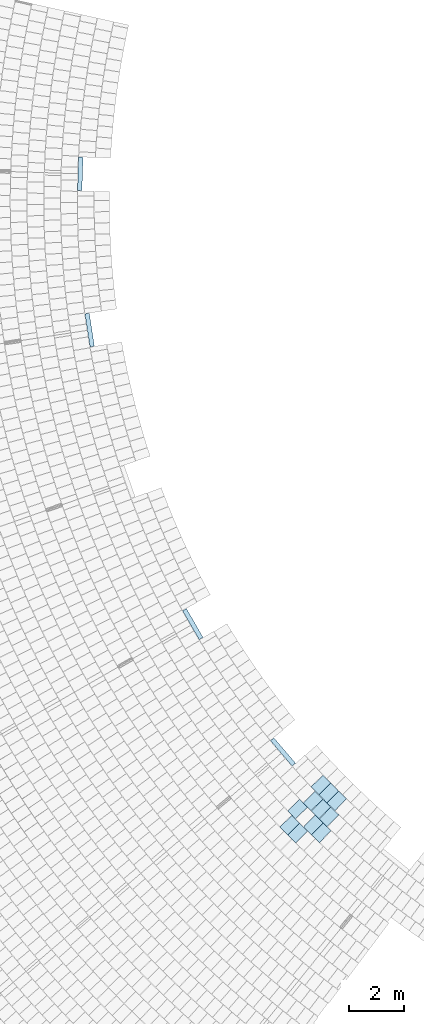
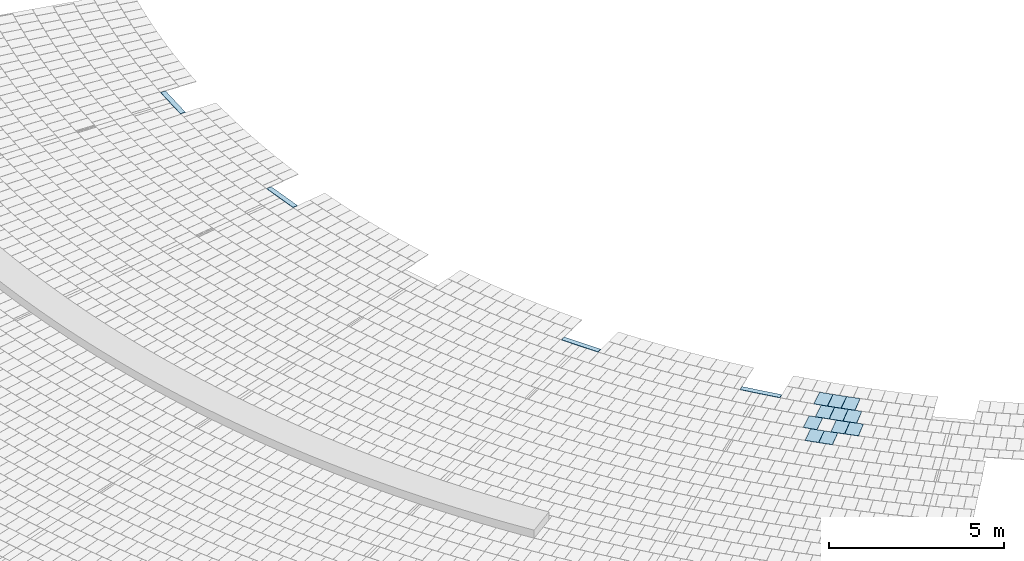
# One storey, part 9 of 438: 15 slabs.
"""IFC2X3 building model written with IfcOpenShell, lengths in millimetres."""

from ifc_helpers import new_model, entity, si_unit, converted_unit, derived_unit, direction, frame, frame_2d, origin, place, context, subcontext, project, spatial, polyline, rectangle, outline, extrude, material, layer, layer_set, layer_usage, type_object, element, save


model = new_model("IFC2X3")

# Units and contexts
model_context = context("Model", 3, precision=0.01, world=origin(), true_north=direction((6.123031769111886e-17, 1.0)))
body_context = subcontext(model_context, "Body", "Model", "MODEL_VIEW")
ifc_project = project(units=[si_unit("LENGTHUNIT", "METRE", prefix="MILLI"), si_unit("AREAUNIT", "SQUARE_METRE"), si_unit("VOLUMEUNIT", "CUBIC_METRE"), converted_unit("PLANEANGLEUNIT", "DEGREE", entity("IfcRatioMeasure", 0.017453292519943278), si_unit("PLANEANGLEUNIT", "RADIAN"), dimensions=[0, 0, 0, 0, 0, 0, 0]), si_unit("MASSUNIT", "GRAM", prefix="KILO"), derived_unit("MASSDENSITYUNIT", [(si_unit("MASSUNIT", "GRAM", prefix="KILO"), 1), (si_unit("LENGTHUNIT", "METRE"), -3)]), derived_unit("MOMENTOFINERTIAUNIT", [(si_unit("LENGTHUNIT", "METRE"), 4)]), si_unit("TIMEUNIT", "SECOND"), si_unit("FREQUENCYUNIT", "HERTZ"), si_unit("THERMODYNAMICTEMPERATUREUNIT", "DEGREE_CELSIUS"), derived_unit("THERMALTRANSMITTANCEUNIT", [(si_unit("MASSUNIT", "GRAM", prefix="KILO"), 1), (si_unit("THERMODYNAMICTEMPERATUREUNIT", "KELVIN"), -1), (si_unit("TIMEUNIT", "SECOND"), -3)]), derived_unit("THERMALCONDUCTANCEUNIT", [(si_unit("MASSUNIT", "GRAM", prefix="KILO"), 1), (si_unit("LENGTHUNIT", "METRE"), 1), (si_unit("THERMODYNAMICTEMPERATUREUNIT", "KELVIN"), -1), (si_unit("TIMEUNIT", "SECOND"), -3)]), derived_unit("VOLUMETRICFLOWRATEUNIT", [(si_unit("LENGTHUNIT", "METRE"), 3), (si_unit("TIMEUNIT", "SECOND"), -1)]), derived_unit("MASSFLOWRATEUNIT", [(si_unit("MASSUNIT", "GRAM", prefix="KILO"), 1), (si_unit("TIMEUNIT", "SECOND"), -1)]), derived_unit("ROTATIONALFREQUENCYUNIT", [(si_unit("TIMEUNIT", "SECOND"), -1)]), si_unit("ELECTRICCURRENTUNIT", "AMPERE"), si_unit("ELECTRICVOLTAGEUNIT", "VOLT"), si_unit("POWERUNIT", "WATT"), converted_unit("FORCEUNIT", "KIP", entity("IfcRatioMeasure", 2.088543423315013e-05), si_unit("FORCEUNIT", "NEWTON"), dimensions=[1, 1, -2, 0, 0, 0, 0]), si_unit("ILLUMINANCEUNIT", "LUX"), si_unit("LUMINOUSFLUXUNIT", "LUMEN"), si_unit("LUMINOUSINTENSITYUNIT", "CANDELA"), derived_unit("USERDEFINED", [(si_unit("MASSUNIT", "GRAM", prefix="KILO"), -1), (si_unit("LENGTHUNIT", "METRE"), -2), (si_unit("TIMEUNIT", "SECOND"), 3), (si_unit("LUMINOUSFLUXUNIT", "LUMEN"), 1)]), derived_unit("USERDEFINED", [(si_unit("MASSUNIT", "GRAM", prefix="KILO"), 1), (si_unit("LENGTHUNIT", "METRE"), 3), (si_unit("TIMEUNIT", "SECOND"), -3), (si_unit("ELECTRICCURRENTUNIT", "AMPERE"), -2)]), derived_unit("USERDEFINED", [(si_unit("LENGTHUNIT", "METRE"), 2), (si_unit("TIMEUNIT", "SECOND"), -2)]), derived_unit("SOUNDPOWERUNIT", [(si_unit("MASSUNIT", "GRAM", prefix="KILO"), 1), (si_unit("LENGTHUNIT", "METRE"), 2), (si_unit("TIMEUNIT", "SECOND"), -3)]), derived_unit("SOUNDPRESSUREUNIT", [(si_unit("MASSUNIT", "GRAM", prefix="KILO"), 1), (si_unit("LENGTHUNIT", "METRE"), -1), (si_unit("TIMEUNIT", "SECOND"), -2)]), derived_unit("LINEARVELOCITYUNIT", [(si_unit("LENGTHUNIT", "METRE"), 1), (si_unit("TIMEUNIT", "SECOND"), -1)]), si_unit("PRESSUREUNIT", "PASCAL"), derived_unit("USERDEFINED", [(si_unit("LENGTHUNIT", "METRE"), -2), (si_unit("MASSUNIT", "GRAM", prefix="KILO"), 1), (si_unit("TIMEUNIT", "SECOND"), -2)]), derived_unit("LINEARFORCEUNIT", [(si_unit("MASSUNIT", "GRAM", prefix="KILO"), 1), (si_unit("LENGTHUNIT", "METRE"), 1), (si_unit("TIMEUNIT", "SECOND"), -2), (si_unit("LENGTHUNIT", "METRE"), -1)]), derived_unit("PLANARFORCEUNIT", [(si_unit("MASSUNIT", "GRAM", prefix="KILO"), 1), (si_unit("LENGTHUNIT", "METRE"), 1), (si_unit("TIMEUNIT", "SECOND"), -2), (si_unit("LENGTHUNIT", "METRE"), -2)]), derived_unit("SPECIFICHEATCAPACITYUNIT", [(si_unit("LENGTHUNIT", "METRE"), 2), (si_unit("TIMEUNIT", "SECOND"), -2), (si_unit("THERMODYNAMICTEMPERATUREUNIT", "KELVIN"), -1)]), derived_unit("VAPORPERMEABILITYUNIT", [(si_unit("TIMEUNIT", "SECOND"), 1), (si_unit("LENGTHUNIT", "METRE"), -1)]), derived_unit("DYNAMICVISCOSITYUNIT", [(si_unit("MASSUNIT", "GRAM", prefix="KILO"), 1), (si_unit("LENGTHUNIT", "METRE"), -1), (si_unit("TIMEUNIT", "SECOND"), -1)]), derived_unit("THERMALEXPANSIONCOEFFICIENTUNIT", [(si_unit("THERMODYNAMICTEMPERATUREUNIT", "KELVIN"), -1)])], contexts=[model_context])

# Site, building, storey
site_placement = place(None, frame((0.0, 0.0, 0.0), z_axis=(0.0, 0.0, 1.0), x_axis=(0.8191520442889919, 0.5735764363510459, 0.0)))
site = spatial("IfcSite", under=ifc_project, at=site_placement, Name="Default", CompositionType="ELEMENT")
building_placement = place(site_placement, origin())
building = spatial("IfcBuilding", under=site, at=building_placement, CompositionType="ELEMENT")
storey_placement = place(building_placement, origin())
storey = spatial("IfcBuildingStorey", under=building, at=storey_placement, Name="PLAN", CompositionType="ELEMENT", Elevation=0.0)

# Slabs
ifc_material = material(Name="Paint-01")
ifc_layer = layer(ifc_material, 20.00000000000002)
ifc_layer_set = layer_set([ifc_layer], Name="Floor:Slab-179:1000")
ifc_layer_usage = layer_usage(ifc_layer_set, "AXIS3", "POSITIVE", 0.0)
slab_type = type_object("IfcSlabType", Name="Floor:Slab-179:1000", PredefinedType="FLOOR", material=ifc_layer_set)
slab_1_placement = place(storey_placement, origin())
element("IfcSlab", 1, at=slab_1_placement, inside=storey, type_object=slab_type, material=ifc_layer_usage, Name="Floor:Slab-179:1000", ObjectType="Floor:Slab-179:1000", PredefinedType="FLOOR", context=body_context, shape_type="SweptSolid", body=[
    extrude(rectangle(XDim=1199.9999999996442, YDim=160.00000000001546, at=frame_2d((3.865352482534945e-12, -1.9113599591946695e-12), x_axis=(1.0, 0.0))), frame((-67744.84397252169, -54415.02907007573, 520.0), z_axis=(0.0, 0.0, -1.0), x_axis=(-0.4425299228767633, -0.8967537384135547, 0.0)), (0.0, 0.0, 1.0), 19.99999999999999),
])
slab_2_placement = place(storey_placement, origin())
element("IfcSlab", 2, at=slab_2_placement, inside=storey, type_object=slab_type, material=ifc_layer_usage, Name="Floor:Slab-179:1000", ObjectType="Floor:Slab-179:1000", PredefinedType="FLOOR", context=body_context, shape_type="SweptSolid", body=[
    extrude(rectangle(XDim=1199.9999999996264, YDim=159.9999999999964, at=frame_2d((-5.229594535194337e-12, 1.4701129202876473e-11), x_axis=(1.0, 0.0))), frame((-64791.31759277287, -49606.53341616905, 520.0), z_axis=(0.0, 0.0, -1.0), x_axis=(-0.5997730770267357, -0.8001701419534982, 0.0)), (0.0, 0.0, 1.0), 20.000000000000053),
])
slab_3_placement = place(storey_placement, origin())
element("IfcSlab", 3, at=slab_3_placement, inside=storey, type_object=slab_type, material=ifc_layer_usage, Name="Floor:Slab-179:1000", ObjectType="Floor:Slab-179:1000", PredefinedType="FLOOR", context=body_context, shape_type="SweptSolid", body=[
    extrude(outline(polyline([(-200.00000453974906, -299.9999986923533), (200.00000134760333, -299.99999869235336), (200.0000045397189, 299.99999869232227), (-200.00000134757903, 299.999998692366), (-200.00000453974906, -299.9999986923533)])), frame((-71511.69140755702, -72866.02138888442, 520.0), z_axis=(0.0, 0.0, -1.0), x_axis=(0.1557696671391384, -0.9877934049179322, 0.0)), (0.0, 0.0, 1.0), 20.000000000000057),
])
slab_4_placement = place(storey_placement, origin())
element("IfcSlab", 4, at=slab_4_placement, inside=storey, type_object=slab_type, material=ifc_layer_usage, Name="Floor:Slab-179:1000", ObjectType="Floor:Slab-179:1000", PredefinedType="FLOOR", context=body_context, shape_type="SweptSolid", body=[
    extrude(outline(polyline([(-200.0000045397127, -299.9999986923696), (200.0000013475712, -299.9999986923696), (200.00000453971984, 299.99999869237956), (-200.0000013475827, 299.99999869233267), (-200.0000045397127, -299.9999986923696)])), frame((-70885.13028792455, -72951.88979726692, 520.0), z_axis=(0.0, 0.0, -1.0), x_axis=(0.16158526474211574, -0.9868587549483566, 0.0)), (0.0, 0.0, 1.0), 19.999999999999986),
])
slab_5_placement = place(storey_placement, origin())
element("IfcSlab", 5, at=slab_5_placement, inside=storey, type_object=slab_type, material=ifc_layer_usage, Name="Floor:Slab-179:1000", ObjectType="Floor:Slab-179:1000", PredefinedType="FLOOR", context=body_context, shape_type="SweptSolid", body=[
    extrude(outline(polyline([(-300.0, -200.00000294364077), (299.99999762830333, -200.00000294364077), (300.0, 200.0000029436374), (-299.9999976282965, 200.0000029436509), (-300.0, -200.00000294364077)])), frame((-71300.06838125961, -74058.81394243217, 520.0), z_axis=(0.0, 0.0, -1.0), x_axis=(0.9810911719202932, 0.1935461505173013, 0.0)), (0.0, 0.0, 1.0), 19.99999999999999),
])
slab_6_placement = place(storey_placement, origin())
element("IfcSlab", 6, at=slab_6_placement, inside=storey, type_object=slab_type, material=ifc_layer_usage, Name="Floor:Slab-179:1000", ObjectType="Floor:Slab-179:1000", PredefinedType="FLOOR", context=body_context, shape_type="SweptSolid", body=[
    extrude(outline(polyline([(-200.00000453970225, -299.99999869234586), (200.00000134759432, -299.99999869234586), (200.00000453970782, 299.9999986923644), (-200.00000134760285, 299.9999986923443), (-200.00000453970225, -299.99999869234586)])), frame((-70817.26753150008, -73350.05197143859, 520.0), z_axis=(0.0, 0.0, -1.0), x_axis=(0.17444164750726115, -0.9846675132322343, 0.0)), (0.0, 0.0, 1.0), 20.000000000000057),
])
slab_7_placement = place(storey_placement, origin())
element("IfcSlab", 7, at=slab_7_placement, inside=storey, type_object=slab_type, material=ifc_layer_usage, Name="Floor:Slab-179:1000", ObjectType="Floor:Slab-179:1000", PredefinedType="FLOOR", context=body_context, shape_type="SweptSolid", body=[
    extrude(outline(polyline([(-200.000004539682, -299.9999986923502), (200.00000134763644, -299.9999986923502), (200.00000453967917, 299.9999986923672), (-200.00000134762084, 299.9999986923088), (-200.000004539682, -299.9999986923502)])), frame((-72074.06611933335, -73178.84425762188, 520.0), z_axis=(0.0, 0.0, -1.0), x_axis=(0.16256215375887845, -0.9866983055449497, 0.0)), (0.0, 0.0, 1.0), 20.000000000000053),
])
slab_8_placement = place(storey_placement, origin())
element("IfcSlab", 8, at=slab_8_placement, inside=storey, type_object=slab_type, material=ifc_layer_usage, Name="Floor:Slab-179:1000", ObjectType="Floor:Slab-179:1000", PredefinedType="FLOOR", context=body_context, shape_type="SweptSolid", body=[
    extrude(outline(polyline([(-200.00000453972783, -299.9999986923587), (200.0000013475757, -299.9999986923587), (200.0000045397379, 299.99999869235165), (-200.00000134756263, 299.9999986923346), (-200.00000453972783, -299.9999986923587)])), frame((-72005.93270409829, -73576.81019518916, 520.0), z_axis=(0.0, 0.0, -1.0), x_axis=(0.17492902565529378, -0.9845810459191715, 0.0)), (0.0, 0.0, 1.0), 20.000000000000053),
])
slab_9_placement = place(storey_placement, origin())
element("IfcSlab", 9, at=slab_9_placement, inside=storey, type_object=slab_type, material=ifc_layer_usage, Name="Floor:Slab-179:1000", ObjectType="Floor:Slab-179:1000", PredefinedType="FLOOR", context=body_context, shape_type="SweptSolid", body=[
    extrude(outline(polyline([(-200.00000453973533, -299.9999986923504), (200.0000013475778, -299.99999869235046), (200.00000453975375, 299.99999869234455), (-200.00000134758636, 299.9999986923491), (-200.00000453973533, -299.9999986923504)])), frame((-70322.5230101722, -72638.93969819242, 520.0), z_axis=(0.0, 0.0, -1.0), x_axis=(0.15449845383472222, -0.9879930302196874, 0.0)), (0.0, 0.0, 1.0), 19.99999999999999),
])
slab_10_placement = place(storey_placement, origin())
element("IfcSlab", 10, at=slab_10_placement, inside=storey, type_object=slab_type, material=ifc_layer_usage, Name="Floor:Slab-179:1000", ObjectType="Floor:Slab-179:1000", PredefinedType="FLOOR", context=body_context, shape_type="SweptSolid", body=[
    extrude(outline(polyline([(-200.00000453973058, -299.99999869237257), (200.00000134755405, -299.99999869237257), (200.00000453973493, 299.99999869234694), (-200.00000134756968, 299.9999986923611), (-200.00000453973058, -299.99999869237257)])), frame((-70257.4546641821, -73037.6474929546, 520.0), z_axis=(0.0, 0.0, -1.0), x_axis=(0.16762895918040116, -0.9858501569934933, 0.0)), (0.0, 0.0, 1.0), 20.000000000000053),
])
slab_11_placement = place(storey_placement, origin())
element("IfcSlab", 11, at=slab_11_placement, inside=storey, type_object=slab_type, material=ifc_layer_usage, Name="Floor:Slab-179:1000", ObjectType="Floor:Slab-179:1000", PredefinedType="FLOOR", context=body_context, shape_type="SweptSolid", body=[
    extrude(outline(polyline([(-300.0, -200.00000294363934), (299.9999976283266, -200.00000294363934), (300.0, 200.00000294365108), (-299.9999976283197, 200.00000294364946), (-300.0, -200.00000294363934)])), frame((-70744.21791145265, -73747.29525413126, 520.0), z_axis=(0.0, 0.0, -1.0), x_axis=(0.9823087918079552, 0.18726835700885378, 0.0)), (0.0, 0.0, 1.0), 19.999999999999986),
])
slab_12_placement = place(storey_placement, origin())
element("IfcSlab", 12, at=slab_12_placement, inside=storey, type_object=slab_type, material=ifc_layer_usage, Name="Floor:Slab-179:1000", ObjectType="Floor:Slab-179:1000", PredefinedType="FLOOR", context=body_context, shape_type="SweptSolid", body=[
    extrude(outline(polyline([(-300.0, -200.00000294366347), (299.9999976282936, -200.00000294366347), (300.0, 200.00000294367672), (-299.9999976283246, 200.00000294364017), (-300.0, -200.00000294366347)])), frame((-71375.69271617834, -73662.12948071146, 520.0), z_axis=(0.0, 0.0, -1.0), x_axis=(0.9834862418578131, 0.18098290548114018, 0.0)), (0.0, 0.0, 1.0), 19.999999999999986),
])
slab_13_placement = place(storey_placement, origin())
element("IfcSlab", 13, at=slab_13_placement, inside=storey, type_object=slab_type, material=ifc_layer_usage, Name="Floor:Slab-179:1000", ObjectType="Floor:Slab-179:1000", PredefinedType="FLOOR", context=body_context, shape_type="SweptSolid", body=[
    extrude(outline(polyline([(-300.0, -200.00000294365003), (299.99999762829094, -200.00000294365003), (300.0, 200.00000294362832), (-299.99999762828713, 200.00000294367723), (-300.0, -200.00000294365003)])), frame((-70187.08770041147, -73435.45434011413, 520.0), z_axis=(0.0, 0.0, -1.0), x_axis=(0.9835327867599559, 0.18072979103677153, 0.0)), (0.0, 0.0, 1.0), 20.000000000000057),
])
slab_14_placement = place(storey_placement, origin())
element("IfcSlab", 14, at=slab_14_placement, inside=storey, type_object=slab_type, material=ifc_layer_usage, Name="Floor:Slab-179:1000", ObjectType="Floor:Slab-179:1000", PredefinedType="FLOOR", context=body_context, shape_type="SweptSolid", body=[
    extrude(rectangle(XDim=1199.9999999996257, YDim=160.0000000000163, at=frame_2d((8.242295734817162e-12, -5.073275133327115e-12), x_axis=(1.0, 0.0))), frame((-70781.57454125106, -65235.085448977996, 520.0), z_axis=(0.0, 0.0, -1.0), x_axis=(-0.08870204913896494, -0.9960582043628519, 0.0)), (0.0, 0.0, 1.0), 20.000000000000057),
])
slab_15_placement = place(storey_placement, origin())
element("IfcSlab", 15, at=slab_15_placement, inside=storey, type_object=slab_type, material=ifc_layer_usage, Name="Floor:Slab-179:1000", ObjectType="Floor:Slab-179:1000", PredefinedType="FLOOR", context=body_context, shape_type="SweptSolid", body=[
    extrude(rectangle(XDim=1199.9999999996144, YDim=159.9999999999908, at=frame_2d((9.094947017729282e-12, -3.47455397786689e-12), x_axis=(1.0, 0.0))), frame((-70761.36651287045, -70878.18213121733, 520.0), z_axis=(0.0, 0.0, -1.0), x_axis=(0.0958334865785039, -0.9953973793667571, 0.0)), (0.0, 0.0, 1.0), 19.99999999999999),
])

save(model, "model.ifc")
